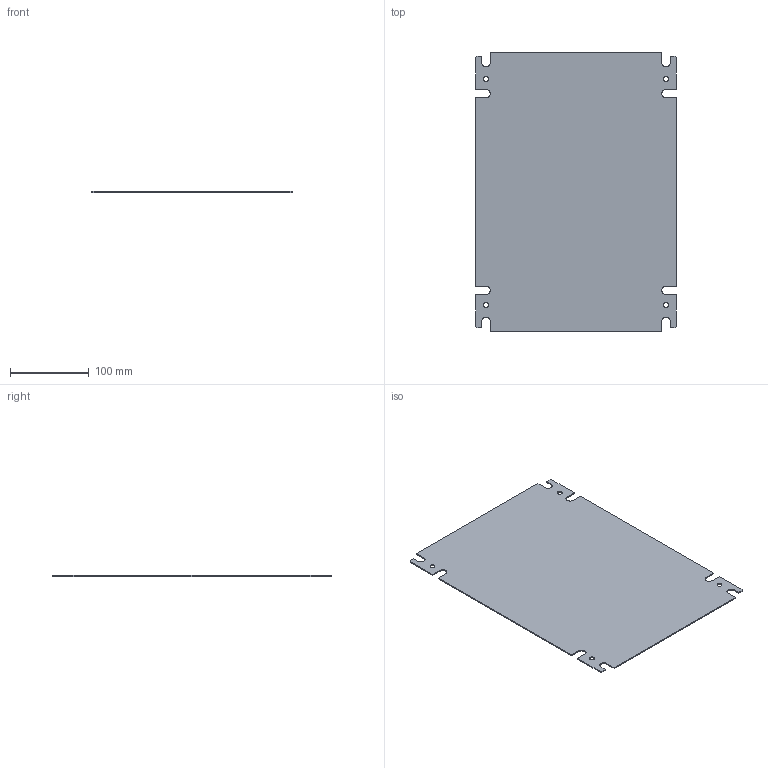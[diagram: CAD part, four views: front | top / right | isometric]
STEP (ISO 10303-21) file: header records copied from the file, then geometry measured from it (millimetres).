
FILE_DESCRIPTION (( 'STEP AP203' ), '1' );
FILE_NAME ('g400p300.STEP', '2010-01-28T20:30:16', ( 'Hoffman User' ), ( 'Hoffman Enclosures' ), 'SwSTEP 2.0', 'SolidWorks 2009', '' );
FILE_SCHEMA (( 'CONFIG_CONTROL_DESIGN' ));
Length unit declared in the file: inch
Products named in the file (2): g400p300; 87952326
Assembly tree (1 placements, depth 2):
  g400p300
    87952326
Bounding box: 255 x 355 x 1.4 mm (x, y, z)
Volume: 124016.4 mm3; surface area: 179660.3 mm2
Topology: 1 solids, 1 shells, 52 faces, 150 edges, 100 vertices
Faces by surface type: plane 34, cylinder 18
Entity records: 1926 total; most frequent: CARTESIAN_POINT 306, ORIENTED_EDGE 300, DIRECTION 298, EDGE_CURVE 150, VECTOR 114, LINE 114, VERTEX_POINT 100, AXIS2_PLACEMENT_3D 92
